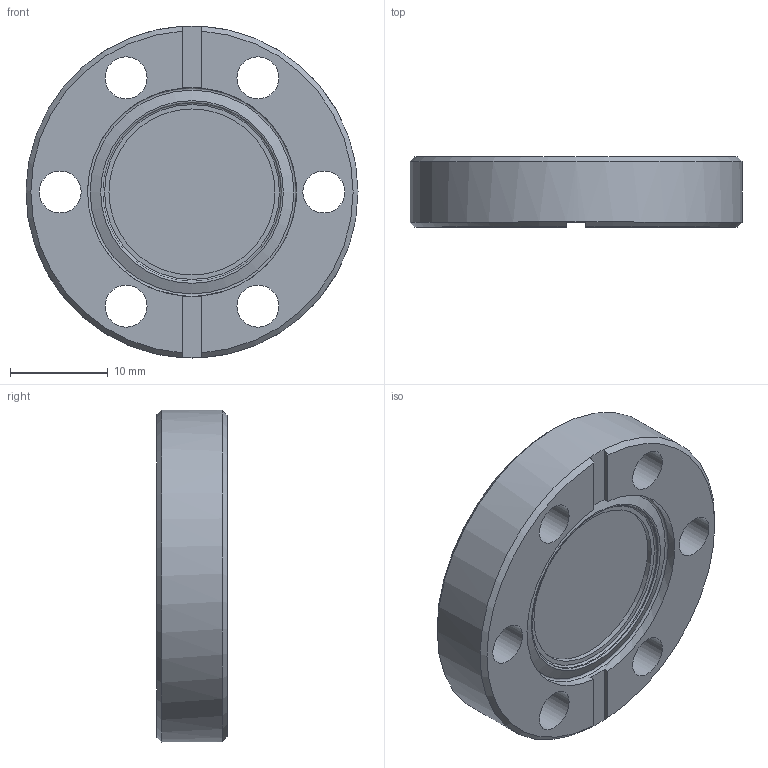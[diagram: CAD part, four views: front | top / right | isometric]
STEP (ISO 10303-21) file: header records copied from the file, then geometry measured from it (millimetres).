
FILE_DESCRIPTION(/* description */ (''),/* implementation_level */ '2;1');
FILE_NAME(/* name */ '',/* time_stamp */ '2024-03-04T17:26:49+09:00',/* author */ (''),/* organization */ (''),/* preprocessor_version */ 'ST-DEVELOPER v20',/* originating_system */ 'Autodesk Translation Framework v12.20.1.177',/* authorisation */ '');
FILE_SCHEMA (('AUTOMOTIVE_DESIGN { 1 0 10303 214 3 1 1 }'));
Length unit declared in the file: millimetre
Products named in the file (1): 2107-4141 ICF34(t7.2)ブランク(BeCu)溝あり
Bounding box: 34 x 7.2 x 34 mm (x, y, z)
Volume: 5352.3 mm3; surface area: 3060.8 mm2
Topology: 1 solids, 1 shells, 28 faces, 71 edges, 46 vertices
Faces by surface type: plane 11, cylinder 10, cone 4, torus 3
Full cylindrical faces by diameter (mm): 4.3 x6, 17 x1, 18.3 x1, 21.4 x1, 34 x1
Entity records: 932 total; most frequent: DIRECTION 172, CARTESIAN_POINT 146, ORIENTED_EDGE 142, AXIS2_PLACEMENT_3D 72, EDGE_CURVE 71, VERTEX_POINT 46, CIRCLE 43, EDGE_LOOP 41
